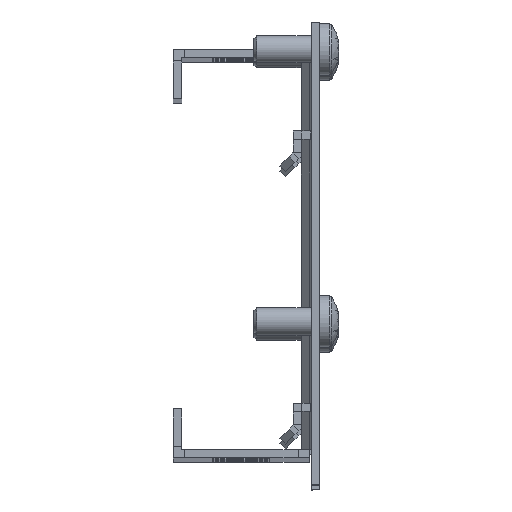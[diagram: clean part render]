
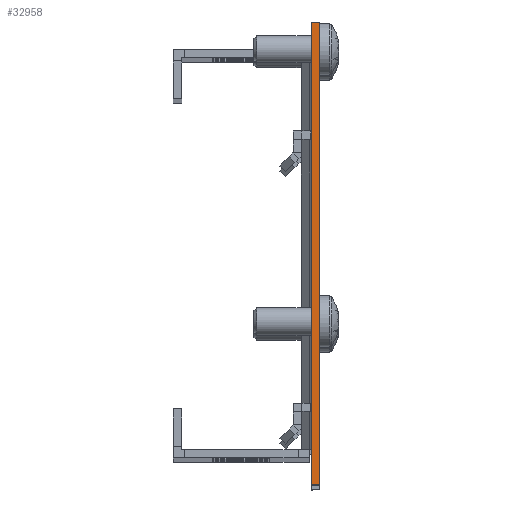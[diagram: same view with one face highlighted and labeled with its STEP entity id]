
A CAD part, top view. The second image highlights one B-rep face of the part: STEP entity #32958.
In plain terms, the highlighted planar face has unit normal (0, 0, 1) as drawn and (-1, 0, 0) by its records, which use the part's own axes.
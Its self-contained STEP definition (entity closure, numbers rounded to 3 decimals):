
#32293 = VERTEX_POINT('',#32294);
#32294 = CARTESIAN_POINT('',(-275.022,42.5,1.802));
#32300 = EDGE_CURVE('',#32293,#32301,#32303,.T.);
#32301 = VERTEX_POINT('',#32302);
#32302 = CARTESIAN_POINT('',(-275.022,-42.5,1.802));
#32303 = LINE('',#32304,#32305);
#32304 = CARTESIAN_POINT('',(-275.022,0.,
    1.802));
#32305 = VECTOR('',#32306,1.);
#32306 = DIRECTION('',(0.,-1.,0.));
#32531 = VERTEX_POINT('',#32532);
#32532 = CARTESIAN_POINT('',(-275.022,-42.5,0.302));
#32538 = EDGE_CURVE('',#32539,#32531,#32541,.T.);
#32539 = VERTEX_POINT('',#32540);
#32540 = CARTESIAN_POINT('',(-275.022,42.5,0.302));
#32541 = LINE('',#32542,#32543);
#32542 = CARTESIAN_POINT('',(-275.022,-36.,0.302));
#32543 = VECTOR('',#32544,1.);
#32544 = DIRECTION('',(-0.,-1.,0.));
#32958 = ADVANCED_FACE('',(#32959),#32975,.F.);
#32959 = FACE_BOUND('',#32960,.T.);
#32960 = EDGE_LOOP('',(#32961,#32962,#32968,#32969));
#32961 = ORIENTED_EDGE('',*,*,#32538,.T.);
#32962 = ORIENTED_EDGE('',*,*,#32963,.T.);
#32963 = EDGE_CURVE('',#32531,#32301,#32964,.T.);
#32964 = LINE('',#32965,#32966);
#32965 = CARTESIAN_POINT('',(-275.022,-42.5,0.302));
#32966 = VECTOR('',#32967,1.);
#32967 = DIRECTION('',(0.,0.,1.));
#32968 = ORIENTED_EDGE('',*,*,#32300,.F.);
#32969 = ORIENTED_EDGE('',*,*,#32970,.F.);
#32970 = EDGE_CURVE('',#32539,#32293,#32971,.T.);
#32971 = LINE('',#32972,#32973);
#32972 = CARTESIAN_POINT('',(-275.022,42.5,1.802));
#32973 = VECTOR('',#32974,1.);
#32974 = DIRECTION('',(0.,0.,1.));
#32975 = PLANE('',#32976);
#32976 = AXIS2_PLACEMENT_3D('',#32977,#32978,#32979);
#32977 = CARTESIAN_POINT('',(-275.022,-36.,1.802));
#32978 = DIRECTION('',(1.,0.,0.));
#32979 = DIRECTION('',(0.,0.,-1.));
